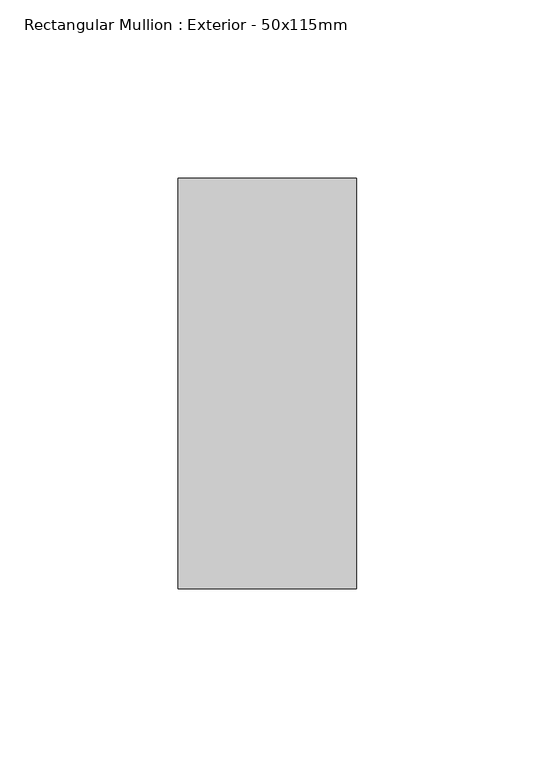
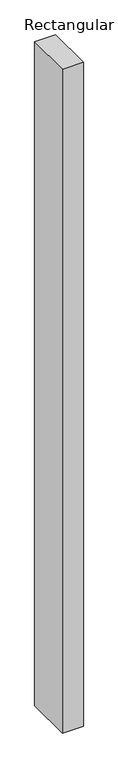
"""IFC4 building model written with IfcOpenShell, lengths in millimetres: member geometry, Rectangular Mullion : Exterior - 50x115mm."""

from ifc_helpers import new_model, si_unit, frame, origin, place, context, project, spatial, polyline, outline, extrude, source, transform, mapped, element, save


def rectangular_mullion_exterior_50x115mm_b31c03e9(model_context):
    return source(origin(), model_context, "Body", "SweptSolid", [
        extrude(outline(polyline([(0.0, 115.0), (0.0, 0.0), (-50.0, 0.0), (-50.0, 115.0), (0.0, 115.0)])), frame((0.0, 0.0, -1680.0), z_axis=(0.0, 0.0, 1.0), x_axis=(1.0, 0.0, 0.0)), (0.0, 0.0, 1.0), 1680.0),
    ])


if __name__ == "__main__":
    model = new_model("IFC4")
    model_context = context("Model", 3, world=origin())
    ifc_project = project(units=[si_unit("LENGTHUNIT", "METRE", prefix="MILLI")], contexts=[model_context])
    site = spatial("IfcSite", under=ifc_project)
    building = spatial("IfcBuilding", under=site)
    placement = place(None, origin())
    rectangular_mullion_exterior_50x115mm_shape = rectangular_mullion_exterior_50x115mm_b31c03e9(model_context)
    element("IfcMember", 1, ObjectType="Rectangular Mullion : Exterior - 50x115mm", at=placement, inside=building, context=model_context, shape_type="MappedRepresentation", body=[
        mapped(rectangular_mullion_exterior_50x115mm_shape, transform((0.0, 0.0, 0.0), x_axis=(1.0, 0.0, 0.0), y_axis=(0.0, 1.0, 0.0), z_axis=(0.0, 0.0, 1.0))),
    ])
    save(model, "model.ifc")
